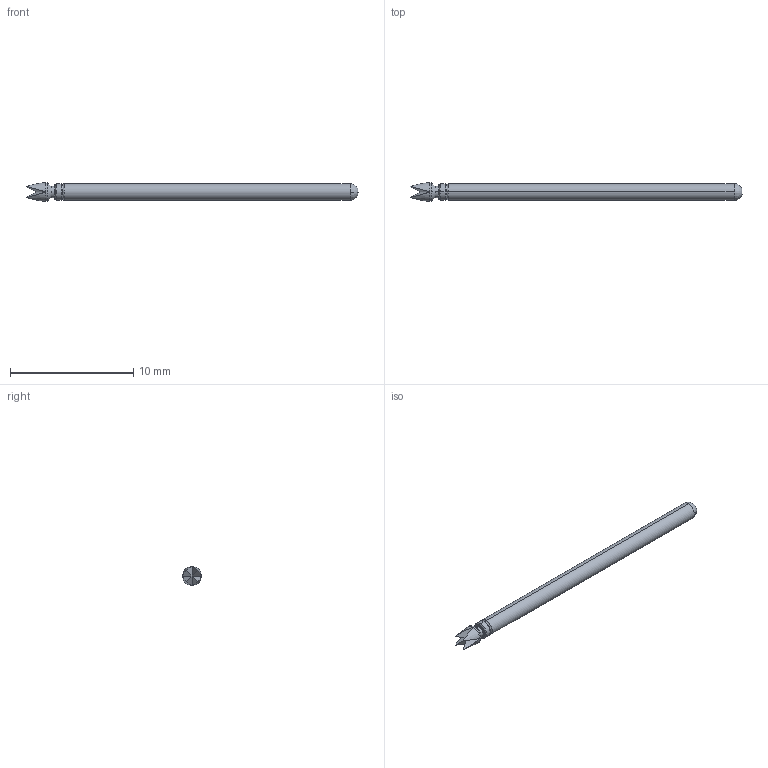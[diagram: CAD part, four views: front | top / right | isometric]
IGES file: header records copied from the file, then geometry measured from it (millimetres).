
Start section: SolidWorks IGES file using analytic representation for surfaces
Global section: file name: Z:\probe solid model mockups\Solidworks models\LTP-25\LTP-25L Full.IGS; native system: SolidWorks 2006 by SolidWorks Corporation; preprocessor: SolidWorks 2006 by SolidWorks Corporation; author: tsakatani; date: 071214.143206; units: inch
Bounding box: 26.92 x 1.52 x 1.52 mm (x, y, z)
Surface area: 118.9 mm2 (no closed solid volume)
Topology: 0 solids, 0 shells, 34 faces, 210 edges, 210 vertices
Faces by surface type: revolution 20, bspline 14
